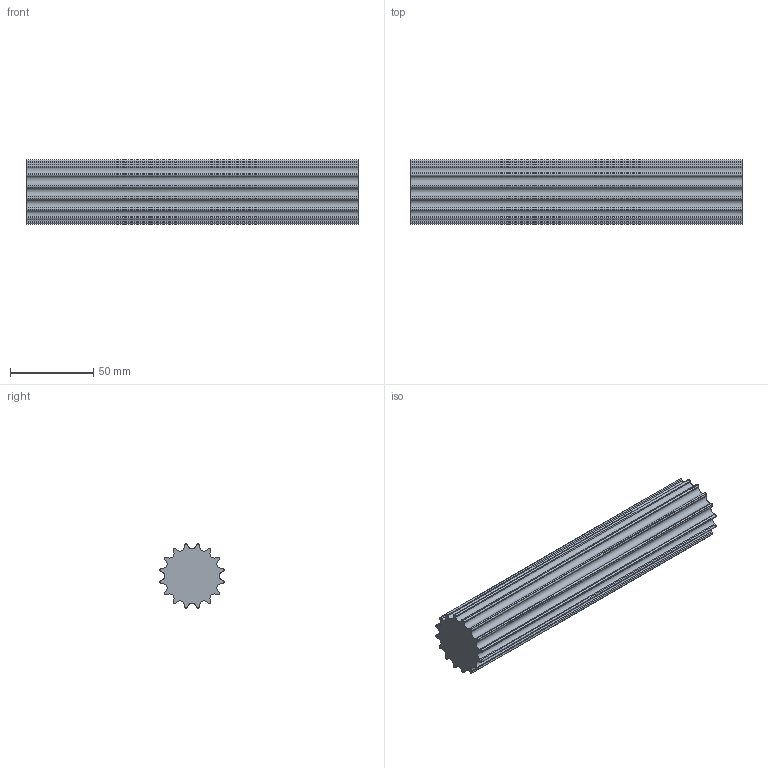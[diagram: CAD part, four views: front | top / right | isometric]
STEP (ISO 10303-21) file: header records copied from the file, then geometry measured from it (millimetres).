
FILE_DESCRIPTION( ( 'STEP AP203' ), '1' );
FILE_NAME( 'C:/Users/Stangenbergd/Desktop/17491601.stp', '2020-08-15T09:47:14', ( 'License CC BY-ND 4.0' ), ( 'CADENAS' ), ' ', 'PARTsolutions', ' ' );
FILE_SCHEMA( ( 'CONFIG_CONTROL_DESIGN' ) );
Length unit declared in the file: millimetre
Products named in the file (1): _17491601
Bounding box: 200 x 38.69 x 38.69 mm (x, y, z)
Volume: 196270.5 mm3; surface area: 35770 mm2
Topology: 1 solids, 1 shells, 98 faces, 288 edges, 192 vertices
Faces by surface type: cylinder 64, plane 34
Entity records: 3364 total; most frequent: DIRECTION 614, CARTESIAN_POINT 579, ORIENTED_EDGE 576, EDGE_CURVE 288, AXIS2_PLACEMENT_3D 227, VERTEX_POINT 192, LINE 160, VECTOR 160
